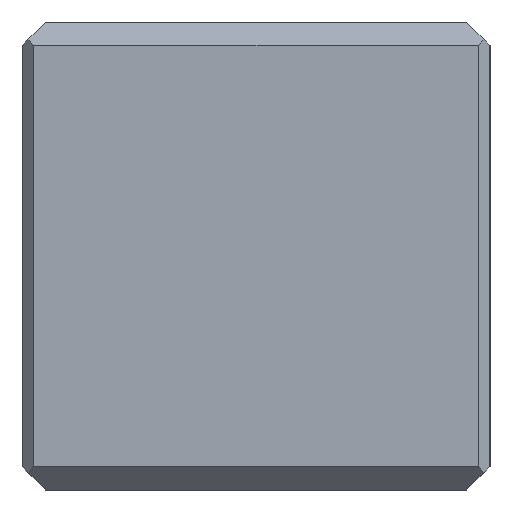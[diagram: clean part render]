
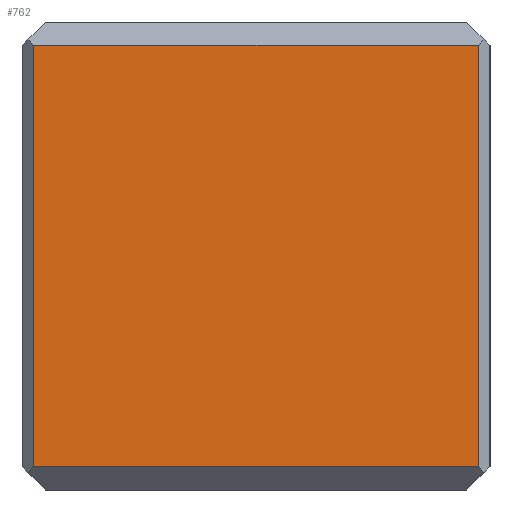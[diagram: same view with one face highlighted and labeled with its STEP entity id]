
A CAD part, left-side view. The second image highlights one B-rep face of the part: STEP entity #762.
In plain terms, the highlighted planar face has unit normal (-1, 0, 0).
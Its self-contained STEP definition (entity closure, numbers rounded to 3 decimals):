
#411=CARTESIAN_POINT('Vertex',(-50.,19.,38.)) ;
#414=CARTESIAN_POINT('Line Origine',(-50.,0.,38.)) ;
#418=CARTESIAN_POINT('Vertex',(-50.,-19.,38.)) ;
#722=CARTESIAN_POINT('Vertex',(-50.,19.,2.)) ;
#725=CARTESIAN_POINT('Line Origine',(-50.,19.,20.)) ;
#739=CARTESIAN_POINT('Axis2P3D Location',(-50.,20.,40.)) ;
#744=CARTESIAN_POINT('Line Origine',(-50.,0.,2.)) ;
#748=CARTESIAN_POINT('Vertex',(-50.,-19.,2.)) ;
#751=CARTESIAN_POINT('Line Origine',(-50.,-19.,20.)) ;
#415=DIRECTION('Vector Direction',(0.,1.,0.)) ;
#726=DIRECTION('Vector Direction',(0.,0.,-1.)) ;
#740=DIRECTION('Axis2P3D Direction',(1.,0.,-0.)) ;
#741=DIRECTION('Axis2P3D XDirection',(0.,1.,0.)) ;
#745=DIRECTION('Vector Direction',(0.,-1.,0.)) ;
#752=DIRECTION('Vector Direction',(0.,0.,1.)) ;
#742=AXIS2_PLACEMENT_3D('Plane Axis2P3D',#739,#740,#741) ;
#757=ORIENTED_EDGE('',*,*,#420,.T.) ;
#758=ORIENTED_EDGE('',*,*,#729,.T.) ;
#759=ORIENTED_EDGE('',*,*,#750,.T.) ;
#760=ORIENTED_EDGE('',*,*,#755,.T.) ;
#416=VECTOR('Line Direction',#415,1.) ;
#727=VECTOR('Line Direction',#726,1.) ;
#746=VECTOR('Line Direction',#745,1.) ;
#753=VECTOR('Line Direction',#752,1.) ;
#762=ADVANCED_FACE('Smusso4',(#761),#743,.F.) ;
#420=EDGE_CURVE('',#419,#412,#417,.T.) ;
#729=EDGE_CURVE('',#412,#723,#728,.T.) ;
#750=EDGE_CURVE('',#723,#749,#747,.T.) ;
#755=EDGE_CURVE('',#749,#419,#754,.T.) ;
#756=EDGE_LOOP('',(#757,#758,#759,#760)) ;
#761=FACE_OUTER_BOUND('',#756,.T.) ;
#417=LINE('Line',#414,#416) ;
#728=LINE('Line',#725,#727) ;
#747=LINE('Line',#744,#746) ;
#754=LINE('Line',#751,#753) ;
#743=PLANE('Plane',#742) ;
#412=VERTEX_POINT('',#411) ;
#419=VERTEX_POINT('',#418) ;
#723=VERTEX_POINT('',#722) ;
#749=VERTEX_POINT('',#748) ;
